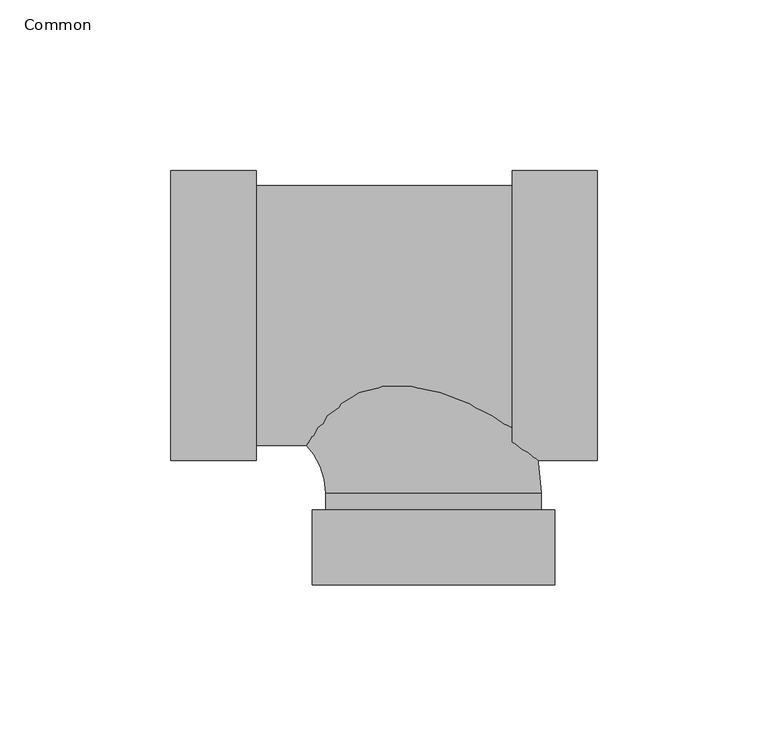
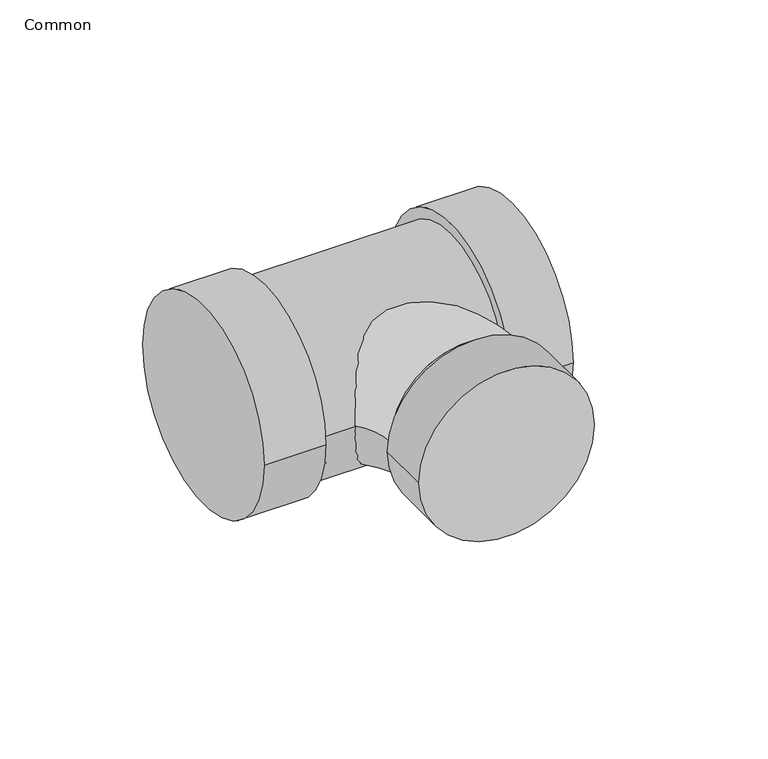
"""IFC4 building model written with IfcOpenShell, lengths in millimetres: pipe fitting geometry, 021_径違い90° 大曲がり Y : Common."""

from ifc_helpers import new_model, si_unit, point, frame, frame_2d, origin, origin_2d, place, context, project, spatial, circle_curve, ellipse_curve, trimmed, segment, composite_curve, outline, extrude, source, transform, mapped, element, save
from ifc_brep_helpers import plane_surface, cylinder_surface, revolved_surface, advanced_brep


def common_ec044e97(model_context):
    return source(origin(), model_context, "Body", "SolidModel", [
        advanced_brep(
        [(-77.0, -42.505, 0.0), (-77.0, 42.505, 0.0), (-52.0, -42.505, 0.0), (-52.0, 42.505, 0.0), (-52.0, -31.6, 0.0), (-52.0, 31.6, 0.0), (31.6, -52.0, 0.0), (-31.6, -52.0, 0.0), (-35.5, -79.0, 0.0), (35.5, -79.0, 0.0), (-31.6, -57.0, 0.0), (31.6, -57.0, 0.0), (-35.5, -57.0, 0.0), (35.5, -57.0, 0.0)],
        [
            (0, 1, circle_curve(frame((-77.0, 0.0, 0.0), z_axis=(-1.0, 0.0, 0.0), x_axis=(0.0, 1.0, 0.0)), 42.505)),
            (1, 0, circle_curve(frame((-77.0, 0.0, 0.0), z_axis=(-1.0, 0.0, 0.0), x_axis=(0.0, 1.0, 0.0)), 42.505)),
            (2, 3, circle_curve(frame((-52.0, 0.0, 0.0), z_axis=(1.0, 0.0, 0.0), x_axis=(0.0, 1.0, 0.0)), 42.505)),
            (3, 2, circle_curve(frame((-52.0, 0.0, 0.0), z_axis=(1.0, 0.0, 0.0), x_axis=(0.0, 1.0, 0.0)), 42.505)),
            (4, 5, circle_curve(frame((-52.0, 0.0, 0.0), z_axis=(-1.0, 0.0, 0.0), x_axis=(0.0, 1.0, 0.0)), 31.6)),
            (5, 4, circle_curve(frame((-52.0, 0.0, 0.0), z_axis=(-1.0, 0.0, 0.0), x_axis=(0.0, 1.0, 0.0)), 31.6)),
            (0, 2),
            (3, 1),
            (6, 5, circle_curve(frame((-52.0, -52.0, 0.0), z_axis=(0.0, 0.0, 1.0), x_axis=(0.0, 1.0, 0.0)), 83.6)),
            (4, 7, circle_curve(frame((-52.0, -52.0, 0.0), z_axis=(0.0, 0.0, -1.0), x_axis=(0.0, 1.0, 0.0)), 20.4)),
            (7, 6, circle_curve(frame((0.0, -52.0, 0.0), z_axis=(0.0, 1.0, 0.0), x_axis=(1.0, 0.0, 0.0)), 31.6)),
            (6, 7, circle_curve(frame((0.0, -52.0, 0.0), z_axis=(0.0, 1.0, 0.0), x_axis=(1.0, 0.0, 0.0)), 31.6)),
            (8, 9, circle_curve(frame((0.0, -79.0, 0.0), z_axis=(0.0, -1.0, 0.0), x_axis=(1.0, 0.0, 0.0)), 35.5)),
            (9, 8, circle_curve(frame((0.0, -79.0, 0.0), z_axis=(0.0, -1.0, 0.0), x_axis=(1.0, 0.0, 0.0)), 35.5)),
            (7, 10),
            (10, 11, circle_curve(frame((0.0, -57.0, 0.0), z_axis=(0.0, 1.0, 0.0), x_axis=(1.0, 0.0, 0.0)), 31.6)),
            (11, 6),
            (11, 10, circle_curve(frame((0.0, -57.0, 0.0), z_axis=(0.0, 1.0, 0.0), x_axis=(1.0, 0.0, 0.0)), 31.6)),
            (12, 13, circle_curve(frame((0.0, -57.0, 0.0), z_axis=(0.0, 1.0, 0.0), x_axis=(1.0, 0.0, 0.0)), 35.5)),
            (13, 12, circle_curve(frame((0.0, -57.0, 0.0), z_axis=(0.0, 1.0, 0.0), x_axis=(1.0, 0.0, 0.0)), 35.5)),
            (12, 8),
            (9, 13),
        ],
        [
            plane_surface(frame((-77.0, 0.0, 0.0), z_axis=(-1.0, 0.0, 0.0), x_axis=(0.0, 0.0, 1.0))),
            plane_surface(frame((-52.0, 0.0, 0.0), z_axis=(1.0, 0.0, 0.0), x_axis=(0.0, 0.0, 1.0))),
            cylinder_surface(frame((-77.0, 0.0, 0.0), z_axis=(-1.0, 0.0, 0.0), x_axis=(0.0, 1.0, 0.0)), 42.505),
            revolved_surface(trimmed(ellipse_curve(frame((-52.0, 0.0, 0.0), z_axis=(-1.0, 0.0, 0.0), x_axis=(0.0, 1.0, 0.0)), 31.6, 31.6), [point((-52.0, -31.6, 0.0))], [point((-52.0, 31.6, 0.0))], True, "CARTESIAN"), (-52.0, -52.0, 0.0), (0.0, 0.0, -1.0)),
            revolved_surface(trimmed(ellipse_curve(frame((-52.0, 0.0, 0.0), z_axis=(-1.0, 0.0, 0.0), x_axis=(0.0, 1.0, 0.0)), 31.6, 31.6), [point((-52.0, 31.6, 0.0))], [point((-52.0, -31.6, 0.0))], True, "CARTESIAN"), (-52.0, -52.0, 0.0), (0.0, 0.0, -1.0)),
            plane_surface(frame((0.0, -79.0, 0.0), z_axis=(0.0, -1.0, 0.0), x_axis=(0.0, 0.0, 1.0))),
            cylinder_surface(frame((0.0, -52.0, 0.0), z_axis=(0.0, 1.0, 0.0), x_axis=(1.0, 0.0, 0.0)), 31.6),
            plane_surface(frame((0.0, -57.0, 0.0), z_axis=(0.0, 1.0, 0.0), x_axis=(0.0, 0.0, 1.0))),
            cylinder_surface(frame((0.0, -57.0, 0.0), z_axis=(0.0, 1.0, 0.0), x_axis=(1.0, 0.0, 0.0)), 35.5),
        ],
        [
            (0, [[1, 2]]),
            (1, [[3, 4], [5, 6]]),
            (2, [[-1, 7, -4, 8]]),
            (2, [[-2, -8, -3, -7]]),
            (3, [[9, -5, 10, 11]]),
            (4, [[-9, 12, -10, -6]]),
            (5, [[13, 14]]),
            (6, [[-11, 15, 16, 17]]),
            (6, [[-12, -17, 18, -15]]),
            (7, [[19, 20], [-16, -18]]),
            (8, [[-19, 21, -14, 22]]),
            (8, [[-20, -22, -13, -21]]),
        ],
    ),
        extrude(outline(composite_curve([segment(trimmed(circle_curve(frame_2d((0.0112757, 0.0)), 38.13), [point((-38.1187243, 0.0))], [point((38.1412757, 0.0))], False, "CARTESIAN"), True, "CONTINUOUS"), segment(trimmed(circle_curve(frame_2d((0.0112757, 0.0)), 38.13), [point((38.1412757, 0.0))], [point((-38.1187243, 0.0))], False, "CARTESIAN"), True, "CONTINUOUS")], self_intersect=False)), frame((-52.0, 0.0, 0.0), z_axis=(1.0, 0.0, 0.0), x_axis=(0.0, 1.0, 0.0)), (0.0, 0.0, 1.0), 75.0),
        extrude(outline(composite_curve([segment(trimmed(circle_curve(origin_2d(), 42.505), [point((-42.505, 0.0))], [point((42.505, 0.0))], False, "CARTESIAN"), True, "CONTINUOUS"), segment(trimmed(circle_curve(origin_2d(), 42.505), [point((42.505, 0.0))], [point((-42.505, 0.0))], False, "CARTESIAN"), True, "CONTINUOUS")], self_intersect=False)), frame((23.0, 0.0, 0.0), z_axis=(1.0, 0.0, 0.0), x_axis=(0.0, 1.0, 0.0)), (0.0, 0.0, 1.0), 25.0),
    ])


if __name__ == "__main__":
    model = new_model("IFC4")
    model_context = context("Model", 3, world=origin())
    ifc_project = project(units=[si_unit("LENGTHUNIT", "METRE", prefix="MILLI")], contexts=[model_context])
    site = spatial("IfcSite", under=ifc_project)
    building = spatial("IfcBuilding", under=site)
    placement = place(None, origin())
    common_shape = common_ec044e97(model_context)
    element("IfcPipeFitting", 1, ObjectType="021_径違い90° 大曲がり Y : Common", at=placement, inside=building, context=model_context, shape_type="MappedRepresentation", body=[
        mapped(common_shape, transform((0.0, 0.0, 0.0), x_axis=(1.0, 0.0, 0.0), y_axis=(0.0, 1.0, 0.0), z_axis=(0.0, 0.0, 1.0))),
    ])
    save(model, "model.ifc")
